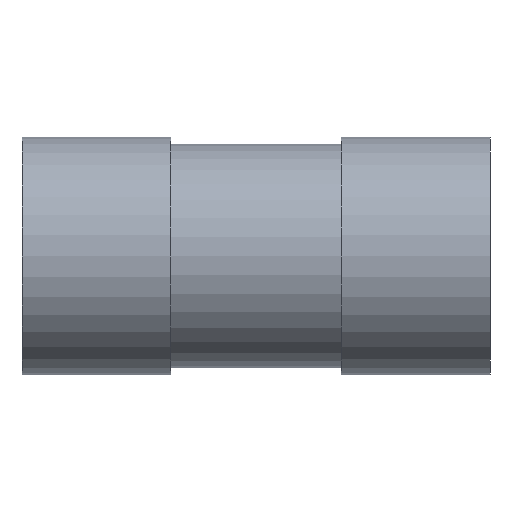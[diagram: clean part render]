
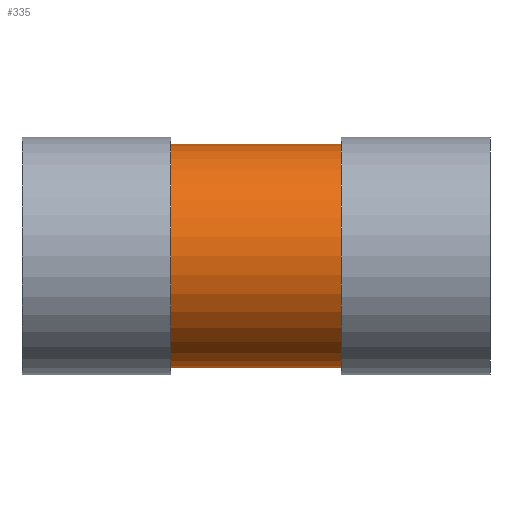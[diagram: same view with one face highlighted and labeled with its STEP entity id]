
A CAD part, front view. The second image highlights one B-rep face of the part: STEP entity #335.
In plain terms, the highlighted cylindrical face has radius 15.75 mm (diameter 31.5 mm), a partial arc.
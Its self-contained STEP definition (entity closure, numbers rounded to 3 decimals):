
#259 = EDGE_CURVE ( 'NONE', #276, #620, #1299, .T. ) ;
#276 = VERTEX_POINT ( 'NONE', #1476 ) ;
#285 = ORIENTED_EDGE ( 'NONE', *, *, #259, .F. ) ;
#286 = ORIENTED_EDGE ( 'NONE', *, *, #312, .T. ) ;
#312 = EDGE_CURVE ( 'NONE', #276, #339, #1416, .T. ) ;
#335 = ADVANCED_FACE ( 'NONE', ( #1530 ), #1529, .T. ) ;
#339 = VERTEX_POINT ( 'NONE', #1673 ) ;
#340 = ORIENTED_EDGE ( 'NONE', *, *, #341, .F. ) ;
#341 = EDGE_CURVE ( 'NONE', #620, #422, #1671, .T. ) ;
#342 = EDGE_LOOP ( 'NONE', ( #285, #286, #420, #340 ) ) ;
#420 = ORIENTED_EDGE ( 'NONE', *, *, #421, .T. ) ;
#421 = EDGE_CURVE ( 'NONE', #339, #422, #1822, .T. ) ;
#422 = VERTEX_POINT ( 'NONE', #1840 ) ;
#620 = VERTEX_POINT ( 'NONE', #2655 ) ;
#1296 = DIRECTION ( 'NONE',  ( 1., 0., 0. ) ) ;
#1297 = VECTOR ( 'NONE', #1296, 1000. ) ;
#1298 = CARTESIAN_POINT ( 'NONE',  ( 61.514, 0., 15.75 ) ) ;
#1299 = LINE ( 'NONE', #1298, #1297 ) ;
#1412 = DIRECTION ( 'NONE',  ( 0., 0., -1. ) ) ;
#1413 = DIRECTION ( 'NONE',  ( 1., 0., 0. ) ) ;
#1414 = CARTESIAN_POINT ( 'NONE',  ( -12., 0., 0. ) ) ;
#1415 = AXIS2_PLACEMENT_3D ( 'NONE', #1414, #1413, #1412 ) ;
#1416 = CIRCLE ( 'NONE', #1415, 15.75 ) ;
#1476 = CARTESIAN_POINT ( 'NONE',  ( -12., 0., 15.75 ) ) ;
#1525 = DIRECTION ( 'NONE',  ( 0., 0., -1. ) ) ;
#1526 = DIRECTION ( 'NONE',  ( 1., 0., 0. ) ) ;
#1527 = CARTESIAN_POINT ( 'NONE',  ( 61.514, 0., 0. ) ) ;
#1528 = AXIS2_PLACEMENT_3D ( 'NONE', #1527, #1526, #1525 ) ;
#1529 = CYLINDRICAL_SURFACE ( 'NONE', #1528, 15.75 ) ;
#1530 = FACE_OUTER_BOUND ( 'NONE', #342, .T. ) ;
#1667 = DIRECTION ( 'NONE',  ( 0., 0., -1. ) ) ;
#1668 = DIRECTION ( 'NONE',  ( 1., 0., 0. ) ) ;
#1669 = CARTESIAN_POINT ( 'NONE',  ( 12., 0., 0. ) ) ;
#1670 = AXIS2_PLACEMENT_3D ( 'NONE', #1669, #1668, #1667 ) ;
#1671 = CIRCLE ( 'NONE', #1670, 15.75 ) ;
#1673 = CARTESIAN_POINT ( 'NONE',  ( -12., 0., -15.75 ) ) ;
#1822 = LINE ( 'NONE', #1843, #1842 ) ;
#1840 = CARTESIAN_POINT ( 'NONE',  ( 12., 0., -15.75 ) ) ;
#1841 = DIRECTION ( 'NONE',  ( 1., 0., 0. ) ) ;
#1842 = VECTOR ( 'NONE', #1841, 1000. ) ;
#1843 = CARTESIAN_POINT ( 'NONE',  ( 61.514, 0., -15.75 ) ) ;
#2655 = CARTESIAN_POINT ( 'NONE',  ( 12., 0., 15.75 ) ) ;
